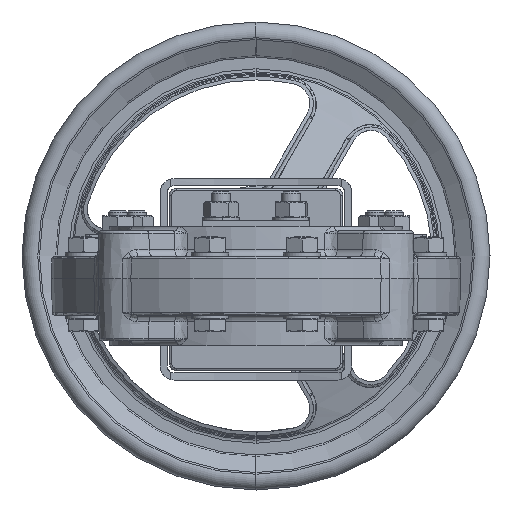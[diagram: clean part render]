
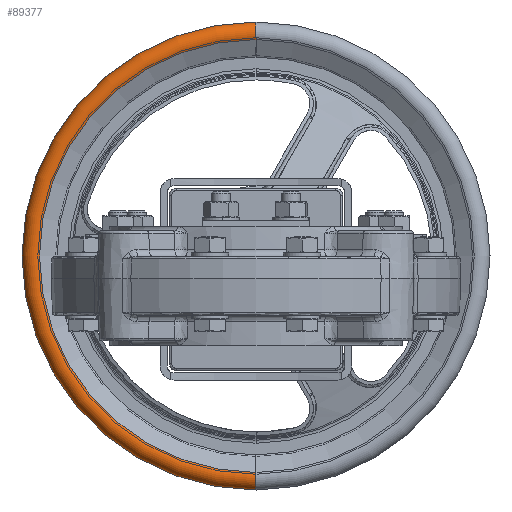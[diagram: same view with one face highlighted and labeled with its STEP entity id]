
A CAD part, front view. The second image highlights one B-rep face of the part: STEP entity #89377.
In plain terms, the highlighted toroidal (fillet/blend) face has major radius 95 mm and minor radius 5 mm.
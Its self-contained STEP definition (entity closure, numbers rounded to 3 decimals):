
#8978 = AXIS2_PLACEMENT_3D ( 'NONE', #61309, #19234, #68355 ) ;
#10781 = EDGE_LOOP ( 'NONE', ( #18320, #27650, #58220, #18022 ) ) ;
#12070 = AXIS2_PLACEMENT_3D ( 'NONE', #80558, #38475, #87624 ) ;
#18022 = ORIENTED_EDGE ( 'NONE', *, *, #71030, .F. ) ;
#18320 = ORIENTED_EDGE ( 'NONE', *, *, #34475, .T. ) ;
#19234 = DIRECTION ( 'NONE',  ( -1., 0., 0. ) ) ;
#22918 = CARTESIAN_POINT ( 'NONE',  ( 0., 333.17, -82.75 ) ) ;
#23777 = VERTEX_POINT ( 'NONE', #39584 ) ;
#26582 = VERTEX_POINT ( 'NONE', #43078 ) ;
#27650 = ORIENTED_EDGE ( 'NONE', *, *, #60821, .T. ) ;
#28031 = AXIS2_PLACEMENT_3D ( 'NONE', #70762, #78465, #43458 ) ;
#28093 = DIRECTION ( 'NONE',  ( 1., 0., 0. ) ) ;
#34475 = EDGE_CURVE ( 'NONE', #47933, #26582, #81558, .T. ) ;
#35860 = CARTESIAN_POINT ( 'NONE',  ( 0., 333.17, 9.75 ) ) ;
#38475 = DIRECTION ( 'NONE',  ( 0., 1., 0. ) ) ;
#39584 = CARTESIAN_POINT ( 'NONE',  ( 0., 337.5, -90.25 ) ) ;
#40373 = AXIS2_PLACEMENT_3D ( 'NONE', #70163, #28093, #77224 ) ;
#42948 = DIRECTION ( 'NONE',  ( 0., 0., -1. ) ) ;
#43078 = CARTESIAN_POINT ( 'NONE',  ( 0., 333.17, 102.25 ) ) ;
#43458 = DIRECTION ( 'NONE',  ( 0., 0., -1. ) ) ;
#47933 = VERTEX_POINT ( 'NONE', #22918 ) ;
#50645 = CARTESIAN_POINT ( 'NONE',  ( 0., 337.5, 109.75 ) ) ;
#51635 = CIRCLE ( 'NONE', #8978, 5. ) ;
#58220 = ORIENTED_EDGE ( 'NONE', *, *, #87327, .F. ) ;
#60821 = EDGE_CURVE ( 'NONE', #26582, #90670, #51635, .T. ) ;
#61309 = CARTESIAN_POINT ( 'NONE',  ( 0., 337.5, 104.75 ) ) ;
#66025 = CIRCLE ( 'NONE', #12070, 100. ) ;
#67723 = CIRCLE ( 'NONE', #40373, 5. ) ;
#68355 = DIRECTION ( 'NONE',  ( 0., -1., 0. ) ) ;
#70163 = CARTESIAN_POINT ( 'NONE',  ( 0., 337.5, -85.25 ) ) ;
#70762 = CARTESIAN_POINT ( 'NONE',  ( 0., 337.5, 9.75 ) ) ;
#71030 = EDGE_CURVE ( 'NONE', #47933, #23777, #67723, .T. ) ;
#77224 = DIRECTION ( 'NONE',  ( 0., 1., 0. ) ) ;
#78465 = DIRECTION ( 'NONE',  ( 0., 1., 0. ) ) ;
#80558 = CARTESIAN_POINT ( 'NONE',  ( 0., 337.5, 9.75 ) ) ;
#81558 = CIRCLE ( 'NONE', #85692, 92.5 ) ;
#84938 = DIRECTION ( 'NONE',  ( 0., 1., 0. ) ) ;
#85692 = AXIS2_PLACEMENT_3D ( 'NONE', #35860, #84938, #42948 ) ;
#87063 = FACE_OUTER_BOUND ( 'NONE', #10781, .T. ) ;
#87327 = EDGE_CURVE ( 'NONE', #23777, #90670, #66025, .T. ) ;
#87624 = DIRECTION ( 'NONE',  ( 0., 0., -1. ) ) ;
#89277 = TOROIDAL_SURFACE ( 'NONE', #28031, 95., 5. ) ;
#89377 = ADVANCED_FACE ( 'NONE', ( #87063 ), #89277, .T. ) ;
#90670 = VERTEX_POINT ( 'NONE', #50645 ) ;
